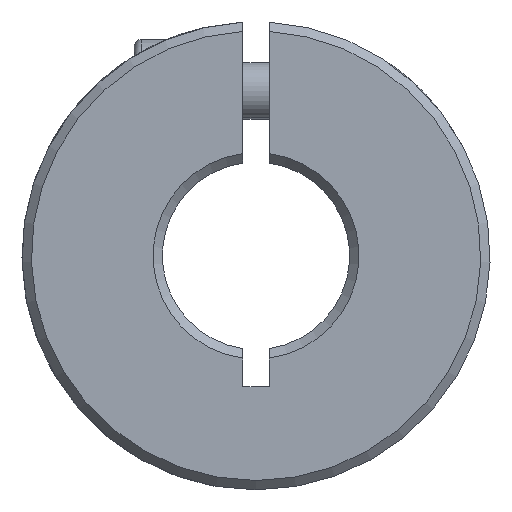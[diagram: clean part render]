
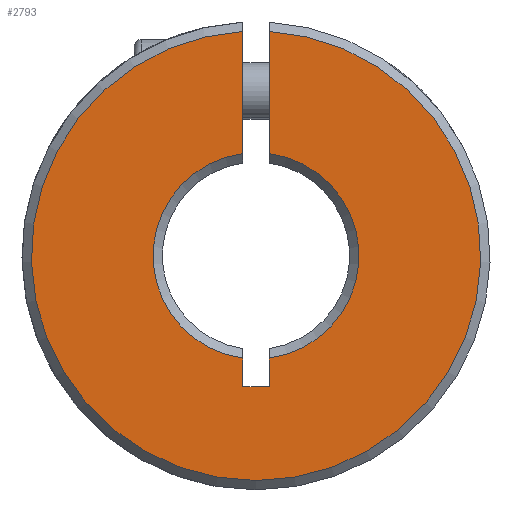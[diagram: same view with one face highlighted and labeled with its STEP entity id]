
A CAD part, front view. The second image highlights one B-rep face of the part: STEP entity #2793.
In plain terms, the highlighted planar face has unit normal (0, -1, 0).
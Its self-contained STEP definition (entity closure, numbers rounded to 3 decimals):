
#37 = ORIENTED_EDGE ( 'NONE', *, *, #3314, .T. ) ;
#122 = PLANE ( 'NONE',  #4312 ) ;
#140 = LINE ( 'NONE', #896, #4864 ) ;
#182 = VERTEX_POINT ( 'NONE', #3386 ) ;
#276 = AXIS2_PLACEMENT_3D ( 'NONE', #4670, #830, #5013 ) ;
#468 = EDGE_CURVE ( 'NONE', #2886, #182, #4105, .T. ) ;
#515 = CIRCLE ( 'NONE', #2772, 12. ) ;
#519 = CARTESIAN_POINT ( 'NONE',  ( -0.7, 0.25, 5.455 ) ) ;
#630 = ORIENTED_EDGE ( 'NONE', *, *, #845, .T. ) ;
#643 = CARTESIAN_POINT ( 'NONE',  ( -0.7, 0.25, -7. ) ) ;
#647 = LINE ( 'NONE', #1899, #2894 ) ;
#700 = CARTESIAN_POINT ( 'NONE',  ( -0.7, 0.25, 11.98 ) ) ;
#762 = EDGE_CURVE ( 'NONE', #2736, #4888, #1061, .T. ) ;
#830 = DIRECTION ( 'NONE',  ( 0., 1., 0. ) ) ;
#845 = EDGE_CURVE ( 'NONE', #2323, #1991, #515, .T. ) ;
#896 = CARTESIAN_POINT ( 'NONE',  ( 0.7, 0.25, -7. ) ) ;
#943 = EDGE_CURVE ( 'NONE', #2273, #182, #2419, .T. ) ;
#997 = CARTESIAN_POINT ( 'NONE',  ( -0.7, 0.25, -7. ) ) ;
#1061 = LINE ( 'NONE', #643, #3633 ) ;
#1125 = LINE ( 'NONE', #3606, #3137 ) ;
#1362 = CARTESIAN_POINT ( 'NONE',  ( 0.7, 0.25, 5.455 ) ) ;
#1376 = EDGE_CURVE ( 'NONE', #4888, #2886, #1125, .T. ) ;
#1407 = CIRCLE ( 'NONE', #276, 5.5 ) ;
#1414 = DIRECTION ( 'NONE',  ( 0., 1., 0. ) ) ;
#1535 = DIRECTION ( 'NONE',  ( 1., 0., 0. ) ) ;
#1811 = DIRECTION ( 'NONE',  ( 0., 0., 1. ) ) ;
#1821 = ORIENTED_EDGE ( 'NONE', *, *, #762, .F. ) ;
#1899 = CARTESIAN_POINT ( 'NONE',  ( -0.7, 0.25, -7. ) ) ;
#1991 = VERTEX_POINT ( 'NONE', #5015 ) ;
#2002 = EDGE_CURVE ( 'NONE', #2273, #1991, #140, .T. ) ;
#2103 = DIRECTION ( 'NONE',  ( 0., 0., 1. ) ) ;
#2258 = DIRECTION ( 'NONE',  ( 0., 1., 0. ) ) ;
#2273 = VERTEX_POINT ( 'NONE', #1362 ) ;
#2323 = VERTEX_POINT ( 'NONE', #700 ) ;
#2419 = CIRCLE ( 'NONE', #4160, 5.5 ) ;
#2454 = ORIENTED_EDGE ( 'NONE', *, *, #3740, .F. ) ;
#2528 = ORIENTED_EDGE ( 'NONE', *, *, #2002, .F. ) ;
#2736 = VERTEX_POINT ( 'NONE', #2767 ) ;
#2767 = CARTESIAN_POINT ( 'NONE',  ( -0.7, 0.25, -5.455 ) ) ;
#2772 = AXIS2_PLACEMENT_3D ( 'NONE', #2873, #4526, #4957 ) ;
#2774 = EDGE_LOOP ( 'NONE', ( #2528, #3311, #4026, #5046, #1821, #37, #2454, #630 ) ) ;
#2793 = ADVANCED_FACE ( 'NONE', ( #3518 ), #122, .F. ) ;
#2855 = VERTEX_POINT ( 'NONE', #519 ) ;
#2873 = CARTESIAN_POINT ( 'NONE',  ( 0., 0.25, 0. ) ) ;
#2886 = VERTEX_POINT ( 'NONE', #5114 ) ;
#2894 = VECTOR ( 'NONE', #4458, 1000. ) ;
#3051 = VECTOR ( 'NONE', #3292, 1000. ) ;
#3137 = VECTOR ( 'NONE', #1535, 1000. ) ;
#3292 = DIRECTION ( 'NONE',  ( 0., 0., 1. ) ) ;
#3311 = ORIENTED_EDGE ( 'NONE', *, *, #943, .T. ) ;
#3314 = EDGE_CURVE ( 'NONE', #2736, #2855, #1407, .T. ) ;
#3386 = CARTESIAN_POINT ( 'NONE',  ( 0.7, 0.25, -5.455 ) ) ;
#3518 = FACE_OUTER_BOUND ( 'NONE', #2774, .T. ) ;
#3606 = CARTESIAN_POINT ( 'NONE',  ( 0.7, 0.25, -7. ) ) ;
#3633 = VECTOR ( 'NONE', #4856, 1000. ) ;
#3740 = EDGE_CURVE ( 'NONE', #2323, #2855, #647, .T. ) ;
#3882 = CARTESIAN_POINT ( 'NONE',  ( 0., 0.25, 0. ) ) ;
#4026 = ORIENTED_EDGE ( 'NONE', *, *, #468, .F. ) ;
#4105 = LINE ( 'NONE', #4506, #3051 ) ;
#4160 = AXIS2_PLACEMENT_3D ( 'NONE', #3882, #1414, #2103 ) ;
#4312 = AXIS2_PLACEMENT_3D ( 'NONE', #5087, #2258, #4326 ) ;
#4326 = DIRECTION ( 'NONE',  ( 0., 0., 1. ) ) ;
#4458 = DIRECTION ( 'NONE',  ( 0., 0., -1. ) ) ;
#4506 = CARTESIAN_POINT ( 'NONE',  ( 0.7, 0.25, -7. ) ) ;
#4526 = DIRECTION ( 'NONE',  ( 0., -1., 0. ) ) ;
#4670 = CARTESIAN_POINT ( 'NONE',  ( 0., 0.25, 0. ) ) ;
#4856 = DIRECTION ( 'NONE',  ( 0., 0., -1. ) ) ;
#4864 = VECTOR ( 'NONE', #1811, 1000. ) ;
#4888 = VERTEX_POINT ( 'NONE', #997 ) ;
#4957 = DIRECTION ( 'NONE',  ( 0., 0., 1. ) ) ;
#5013 = DIRECTION ( 'NONE',  ( 0., 0., 1. ) ) ;
#5015 = CARTESIAN_POINT ( 'NONE',  ( 0.7, 0.25, 11.98 ) ) ;
#5046 = ORIENTED_EDGE ( 'NONE', *, *, #1376, .F. ) ;
#5087 = CARTESIAN_POINT ( 'NONE',  ( 12.5, 0.25, -50. ) ) ;
#5114 = CARTESIAN_POINT ( 'NONE',  ( 0.7, 0.25, -7. ) ) ;
